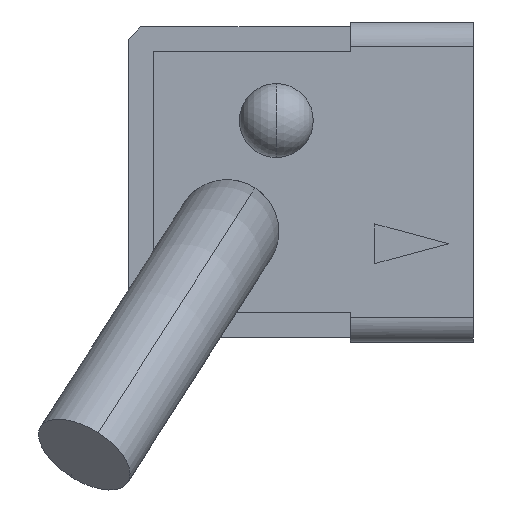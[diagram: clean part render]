
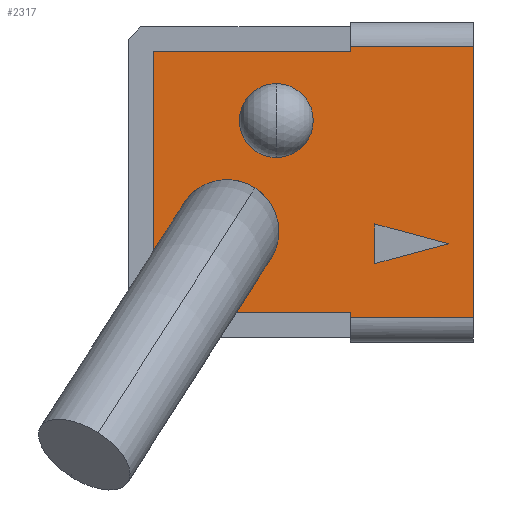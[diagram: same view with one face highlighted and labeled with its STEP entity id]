
A CAD part, left-side view. The second image highlights one B-rep face of the part: STEP entity #2317.
In plain terms, the highlighted planar face has unit normal (-1, 0, 0).
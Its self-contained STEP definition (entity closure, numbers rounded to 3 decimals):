
#79 = VERTEX_POINT ( 'NONE', #390 ) ;
#80 = VERTEX_POINT ( 'NONE', #385 ) ;
#85 = ORIENTED_EDGE ( 'NONE', *, *, #118, .F. ) ;
#95 = ORIENTED_EDGE ( 'NONE', *, *, #111, .T. ) ;
#97 = VERTEX_POINT ( 'NONE', #425 ) ;
#99 = EDGE_CURVE ( 'NONE', #106, #105, #424, .T. ) ;
#100 = VERTEX_POINT ( 'NONE', #420 ) ;
#101 = VERTEX_POINT ( 'NONE', #419 ) ;
#102 = ORIENTED_EDGE ( 'NONE', *, *, #99, .F. ) ;
#103 = ORIENTED_EDGE ( 'NONE', *, *, #107, .F. ) ;
#104 = VERTEX_POINT ( 'NONE', #418 ) ;
#105 = VERTEX_POINT ( 'NONE', #417 ) ;
#106 = VERTEX_POINT ( 'NONE', #416 ) ;
#107 = EDGE_CURVE ( 'NONE', #97, #106, #415, .T. ) ;
#108 = ORIENTED_EDGE ( 'NONE', *, *, #112, .F. ) ;
#110 = VERTEX_POINT ( 'NONE', #410 ) ;
#111 = EDGE_CURVE ( 'NONE', #101, #105, #409, .T. ) ;
#112 = EDGE_CURVE ( 'NONE', #101, #100, #405, .T. ) ;
#118 = EDGE_CURVE ( 'NONE', #80, #79, #448, .T. ) ;
#125 = VERTEX_POINT ( 'NONE', #492 ) ;
#131 = EDGE_CURVE ( 'NONE', #104, #2233, #479, .T. ) ;
#133 = EDGE_CURVE ( 'NONE', #79, #80, #474, .T. ) ;
#135 = ORIENTED_EDGE ( 'NONE', *, *, #133, .F. ) ;
#142 = ORIENTED_EDGE ( 'NONE', *, *, #144, .F. ) ;
#143 = ORIENTED_EDGE ( 'NONE', *, *, #2136, .F. ) ;
#144 = EDGE_CURVE ( 'NONE', #2138, #125, #514, .T. ) ;
#145 = EDGE_LOOP ( 'NONE', ( #142, #143 ) ) ;
#385 = CARTESIAN_POINT ( 'NONE',  ( 0., 6.5, 9. ) ) ;
#390 = CARTESIAN_POINT ( 'NONE',  ( 0., 9.5, 9. ) ) ;
#405 = LINE ( 'NONE', #468, #467 ) ;
#406 = DIRECTION ( 'NONE',  ( 0., -1., 0. ) ) ;
#407 = VECTOR ( 'NONE', #406, 1000. ) ;
#408 = CARTESIAN_POINT ( 'NONE',  ( 0., 5., 1. ) ) ;
#409 = LINE ( 'NONE', #408, #407 ) ;
#410 = CARTESIAN_POINT ( 'NONE',  ( 0., 5., 11.8 ) ) ;
#412 = DIRECTION ( 'NONE',  ( 0., -1., 0. ) ) ;
#413 = VECTOR ( 'NONE', #412, 1000. ) ;
#414 = CARTESIAN_POINT ( 'NONE',  ( 0., 5., 12. ) ) ;
#415 = LINE ( 'NONE', #414, #413 ) ;
#416 = CARTESIAN_POINT ( 'NONE',  ( 0., 0., 12. ) ) ;
#417 = CARTESIAN_POINT ( 'NONE',  ( 0., 0., 1. ) ) ;
#418 = CARTESIAN_POINT ( 'NONE',  ( 0., 13., 1.2 ) ) ;
#419 = CARTESIAN_POINT ( 'NONE',  ( 0., 5., 1. ) ) ;
#420 = CARTESIAN_POINT ( 'NONE',  ( 0., 5., 1.2 ) ) ;
#421 = DIRECTION ( 'NONE',  ( 0., 0., -1. ) ) ;
#422 = VECTOR ( 'NONE', #421, 1000. ) ;
#423 = CARTESIAN_POINT ( 'NONE',  ( 0., 0., 13. ) ) ;
#424 = LINE ( 'NONE', #423, #422 ) ;
#425 = CARTESIAN_POINT ( 'NONE',  ( 0., 5., 12. ) ) ;
#444 = DIRECTION ( 'NONE',  ( 0., 1., 0. ) ) ;
#445 = DIRECTION ( 'NONE',  ( -1., 0., 0. ) ) ;
#446 = CARTESIAN_POINT ( 'NONE',  ( 0., 8., 9. ) ) ;
#447 = AXIS2_PLACEMENT_3D ( 'NONE', #446, #445, #444 ) ;
#448 = CIRCLE ( 'NONE', #447, 1.5 ) ;
#466 = DIRECTION ( 'NONE',  ( 0., 0., 1. ) ) ;
#467 = VECTOR ( 'NONE', #466, 1000. ) ;
#468 = CARTESIAN_POINT ( 'NONE',  ( 0., 5., 1.2 ) ) ;
#470 = DIRECTION ( 'NONE',  ( 0., 1., 0. ) ) ;
#471 = DIRECTION ( 'NONE',  ( -1., 0., 0. ) ) ;
#472 = CARTESIAN_POINT ( 'NONE',  ( 0., 8., 9. ) ) ;
#473 = AXIS2_PLACEMENT_3D ( 'NONE', #472, #471, #470 ) ;
#474 = CIRCLE ( 'NONE', #473, 1.5 ) ;
#476 = DIRECTION ( 'NONE',  ( 0., 0., 1. ) ) ;
#477 = VECTOR ( 'NONE', #476, 1000. ) ;
#478 = CARTESIAN_POINT ( 'NONE',  ( 0., 13., 1.2 ) ) ;
#479 = LINE ( 'NONE', #478, #477 ) ;
#492 = CARTESIAN_POINT ( 'NONE',  ( 0., 7.9, 4.5 ) ) ;
#510 = DIRECTION ( 'NONE',  ( 0., 1., 0. ) ) ;
#511 = DIRECTION ( 'NONE',  ( -1., 0., 0. ) ) ;
#512 = CARTESIAN_POINT ( 'NONE',  ( 0., 10., 4.5 ) ) ;
#513 = AXIS2_PLACEMENT_3D ( 'NONE', #512, #511, #510 ) ;
#514 = CIRCLE ( 'NONE', #513, 2.1 ) ;
#1349 = DIRECTION ( 'NONE',  ( 0., 1., 0. ) ) ;
#1350 = DIRECTION ( 'NONE',  ( -1., 0., 0. ) ) ;
#1351 = CARTESIAN_POINT ( 'NONE',  ( 0., 10., 4.5 ) ) ;
#1352 = AXIS2_PLACEMENT_3D ( 'NONE', #1351, #1350, #1349 ) ;
#1353 = CIRCLE ( 'NONE', #1352, 2.1 ) ;
#1354 = CARTESIAN_POINT ( 'NONE',  ( 0., 12.1, 4.5 ) ) ;
#1453 = CARTESIAN_POINT ( 'NONE',  ( 0., 1., 4. ) ) ;
#1454 = CARTESIAN_POINT ( 'NONE',  ( 0., 4., 3.196 ) ) ;
#1455 = CARTESIAN_POINT ( 'NONE',  ( 0., 4., 4.804 ) ) ;
#1508 = CARTESIAN_POINT ( 'NONE',  ( 0., 13., 11.8 ) ) ;
#1513 = DIRECTION ( 'NONE',  ( 0., 0., 1. ) ) ;
#1514 = VECTOR ( 'NONE', #1513, 1000. ) ;
#1515 = CARTESIAN_POINT ( 'NONE',  ( 0., 5., 12.8 ) ) ;
#1516 = LINE ( 'NONE', #1515, #1514 ) ;
#1549 = DIRECTION ( 'NONE',  ( 0., 1., 0. ) ) ;
#1550 = VECTOR ( 'NONE', #1549, 1000. ) ;
#1551 = CARTESIAN_POINT ( 'NONE',  ( 0., 13., 1.2 ) ) ;
#1552 = LINE ( 'NONE', #1551, #1550 ) ;
#1561 = DIRECTION ( 'NONE',  ( 0., -1., 0. ) ) ;
#1562 = VECTOR ( 'NONE', #1561, 1000. ) ;
#1563 = CARTESIAN_POINT ( 'NONE',  ( 0., 5., 11.8 ) ) ;
#1564 = LINE ( 'NONE', #1563, #1562 ) ;
#1601 = LINE ( 'NONE', #1657, #1656 ) ;
#1637 = DIRECTION ( 'NONE',  ( 0., 1., 0. ) ) ;
#1638 = DIRECTION ( 'NONE',  ( 1., 0., 0. ) ) ;
#1639 = CARTESIAN_POINT ( 'NONE',  ( 0., 0., 13. ) ) ;
#1640 = AXIS2_PLACEMENT_3D ( 'NONE', #1639, #1638, #1637 ) ;
#1641 = PLANE ( 'NONE',  #1640 ) ;
#1642 = FACE_BOUND ( 'NONE', #145, .T. ) ;
#1643 = FACE_BOUND ( 'NONE', #2232, .T. ) ;
#1644 = FACE_OUTER_BOUND ( 'NONE', #2244, .T. ) ;
#1645 = FACE_BOUND ( 'NONE', #2313, .T. ) ;
#1646 = DIRECTION ( 'NONE',  ( 0., -0.966, 0.259 ) ) ;
#1647 = VECTOR ( 'NONE', #1646, 1000. ) ;
#1648 = CARTESIAN_POINT ( 'NONE',  ( 0., 4., 3.196 ) ) ;
#1649 = LINE ( 'NONE', #1648, #1647 ) ;
#1650 = DIRECTION ( 'NONE',  ( 0., 0., -1. ) ) ;
#1651 = VECTOR ( 'NONE', #1650, 1000. ) ;
#1652 = CARTESIAN_POINT ( 'NONE',  ( 0., 4., 4.804 ) ) ;
#1654 = LINE ( 'NONE', #1652, #1651 ) ;
#1655 = DIRECTION ( 'NONE',  ( 0., 0.966, 0.259 ) ) ;
#1656 = VECTOR ( 'NONE', #1655, 1000. ) ;
#1657 = CARTESIAN_POINT ( 'NONE',  ( 0., 1., 4. ) ) ;
#2136 = EDGE_CURVE ( 'NONE', #125, #2138, #1353, .T. ) ;
#2138 = VERTEX_POINT ( 'NONE', #1354 ) ;
#2189 = VERTEX_POINT ( 'NONE', #1455 ) ;
#2190 = VERTEX_POINT ( 'NONE', #1454 ) ;
#2191 = ORIENTED_EDGE ( 'NONE', *, *, #2310, .F. ) ;
#2192 = VERTEX_POINT ( 'NONE', #1453 ) ;
#2228 = ORIENTED_EDGE ( 'NONE', *, *, #2239, .F. ) ;
#2229 = EDGE_CURVE ( 'NONE', #110, #97, #1516, .T. ) ;
#2230 = ORIENTED_EDGE ( 'NONE', *, *, #2229, .F. ) ;
#2232 = EDGE_LOOP ( 'NONE', ( #135, #85 ) ) ;
#2233 = VERTEX_POINT ( 'NONE', #1508 ) ;
#2234 = ORIENTED_EDGE ( 'NONE', *, *, #131, .F. ) ;
#2239 = EDGE_CURVE ( 'NONE', #2233, #110, #1564, .T. ) ;
#2241 = ORIENTED_EDGE ( 'NONE', *, *, #2243, .F. ) ;
#2243 = EDGE_CURVE ( 'NONE', #100, #104, #1552, .T. ) ;
#2244 = EDGE_LOOP ( 'NONE', ( #2241, #108, #95, #102, #103, #2230, #2228, #2234 ) ) ;
#2310 = EDGE_CURVE ( 'NONE', #2192, #2189, #1601, .T. ) ;
#2311 = ORIENTED_EDGE ( 'NONE', *, *, #2312, .F. ) ;
#2312 = EDGE_CURVE ( 'NONE', #2189, #2190, #1654, .T. ) ;
#2313 = EDGE_LOOP ( 'NONE', ( #2315, #2311, #2191 ) ) ;
#2314 = EDGE_CURVE ( 'NONE', #2190, #2192, #1649, .T. ) ;
#2315 = ORIENTED_EDGE ( 'NONE', *, *, #2314, .F. ) ;
#2317 = ADVANCED_FACE ( 'NONE', ( #1645, #1644, #1643, #1642 ), #1641, .F. ) ;
